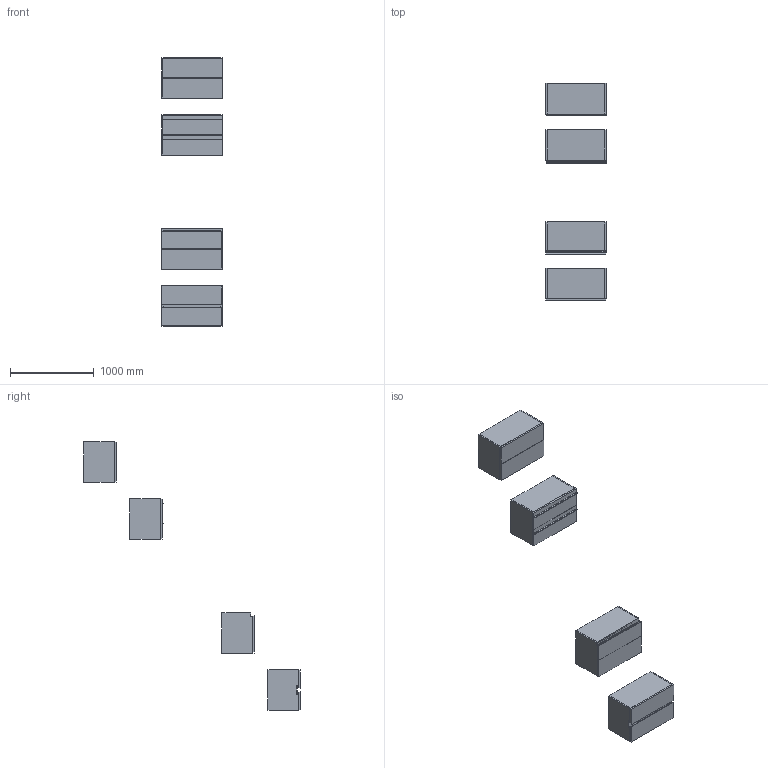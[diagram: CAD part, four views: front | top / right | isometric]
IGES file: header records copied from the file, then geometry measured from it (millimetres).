
Start section: Data from Parasolid IGES Translator 19.0.9, Copyright(c) 2006 Siemens PL M Software. All Rights Reserved.
Global section: file name: noorth-SI-H 48 D 38,8 W 72_8415.igs; native system: By Siemens PLM Incorporated; preprocessor: XPlus GENERIC/IGES 19.0.9; author: Noname; organization: Noname; date: 20200601.102922; units: metre
Bounding box: 723.67 x 2585.1 x 3199.21 mm (x, y, z)
Volume: 83836648.7 mm3; surface area: 13050704.5 mm2
Topology: 33 solids, 33 shells, 318 faces, 700 edges, 428 vertices
Faces by surface type: plane 230, extrusion 36, bspline 32, cylinder 20
